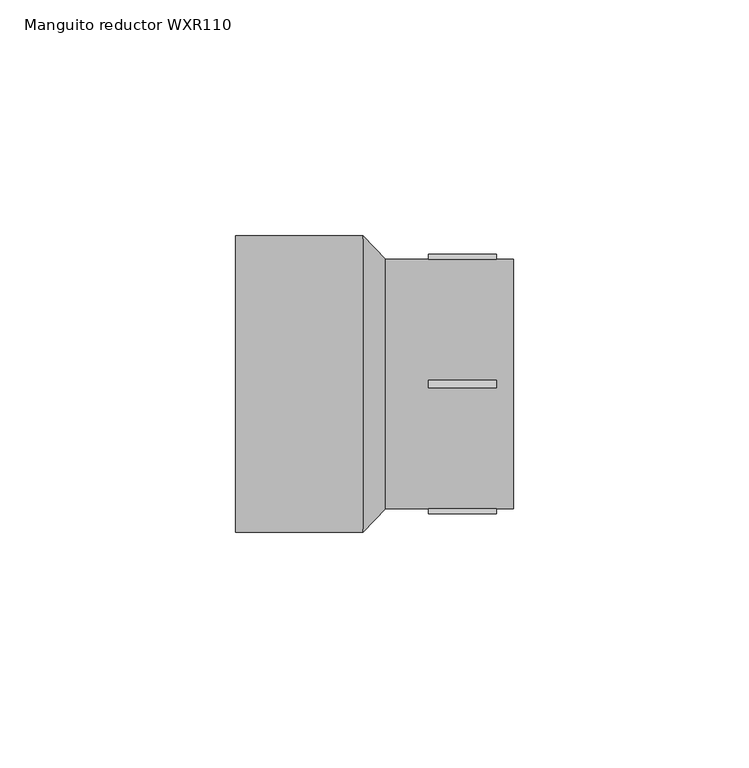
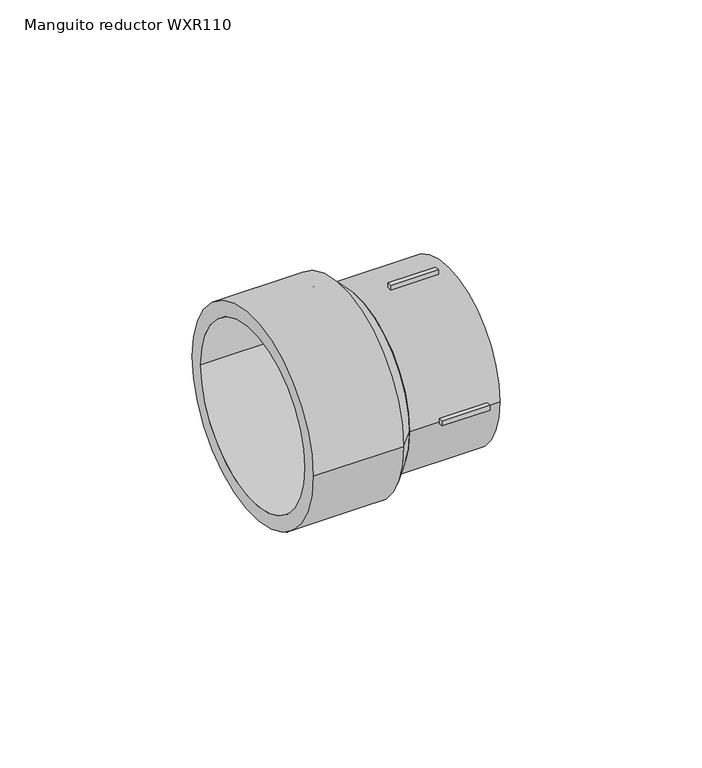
"""IFC4 building model written with IfcOpenShell, lengths in millimetres: pipe fitting geometry, EGB_VASEN_ PPR_Manguito reductor WXR110 : Manguito reductor WXR110."""

from ifc_helpers import new_model, si_unit, point, frame, origin, origin_2d, place, context, project, spatial, polyline, circle_curve, trimmed, segment, composite_curve, outline, extrude, source, transform, mapped, element, save
from ifc_brep_helpers import plane_surface, revolved_surface, advanced_brep


def manguito_reductor_wxr110_959a54b3(model_context):
    return source(origin(), model_context, "Body", "SolidModel", [
        extrude(outline(polyline([(11.5, -0.75), (11.5, 0.75), (25.9, 0.75), (25.9, -0.75), (11.5, -0.75)])), frame((0.0, 0.0, 25.5), z_axis=(0.0, 0.0, 1.0), x_axis=(1.0, 0.0, 0.0)), (0.0, 0.0, 1.0), 2.0),
        extrude(outline(polyline([(11.5, -0.75), (11.5, 0.75), (25.9, 0.75), (25.9, -0.75), (11.5, -0.75)])), frame((0.0, 0.0, -27.5), z_axis=(0.0, 0.0, 1.0), x_axis=(1.0, 0.0, 0.0)), (0.0, 0.0, 1.0), 2.0),
        extrude(outline(polyline([(11.5, 25.5), (11.5, 27.5), (25.9, 27.5), (25.9, 25.5), (11.5, 25.5)])), frame((0.0, 0.0, -0.75), z_axis=(0.0, 0.0, 1.0), x_axis=(1.0, 0.0, 0.0)), (0.0, 0.0, 1.0), 1.5),
        extrude(outline(polyline([(11.5, -27.5), (11.5, -25.5), (25.9, -25.5), (25.9, -27.5), (11.5, -27.5)])), frame((0.0, 0.0, -0.75), z_axis=(0.0, 0.0, 1.0), x_axis=(1.0, 0.0, 0.0)), (0.0, 0.0, 1.0), 1.5),
        extrude(outline(composite_curve([segment(trimmed(circle_curve(origin_2d(), 26.5), [point((-26.5, 0.0))], [point((26.5, 0.0))], False, "CARTESIAN"), True, "CONTINUOUS"), segment(trimmed(circle_curve(origin_2d(), 26.5), [point((26.5, 0.0))], [point((-26.5, 0.0))], False, "CARTESIAN"), True, "CONTINUOUS")], self_intersect=False), holes=[composite_curve([segment(trimmed(circle_curve(origin_2d(), 20.0), [point((-20.0, 0.0))], [point((20.0, 0.0))], True, "CARTESIAN"), True, "CONTINUOUS"), segment(trimmed(circle_curve(origin_2d(), 20.0), [point((20.0, 0.0))], [point((-20.0, 0.0))], True, "CARTESIAN"), True, "CONTINUOUS")], self_intersect=False)]), frame((2.36, 0.0, 0.0), z_axis=(1.0, 0.0, 0.0), x_axis=(0.0, 1.0, 0.0)), (0.0, 0.0, 1.0), 27.14),
        extrude(outline(composite_curve([segment(trimmed(circle_curve(origin_2d(), 31.5), [point((-31.5, 0.0))], [point((31.5, 0.0))], False, "CARTESIAN"), True, "CONTINUOUS"), segment(trimmed(circle_curve(origin_2d(), 31.5), [point((31.5, 0.0))], [point((-31.5, 0.0))], False, "CARTESIAN"), True, "CONTINUOUS")], self_intersect=False), holes=[composite_curve([segment(trimmed(circle_curve(origin_2d(), 27.0), [point((-27.0, 0.0))], [point((27.0, 0.0))], True, "CARTESIAN"), True, "CONTINUOUS"), segment(trimmed(circle_curve(origin_2d(), 27.0), [point((27.0, 0.0))], [point((-27.0, 0.0))], True, "CARTESIAN"), True, "CONTINUOUS")], self_intersect=False)]), frame((-29.5, 0.0, 0.0), z_axis=(1.0, 0.0, 0.0), x_axis=(0.0, 1.0, 0.0)), (0.0, 0.0, 1.0), 27.14),
        advanced_brep(
        [(2.36, -26.5, 0.0), (2.36, 26.5, 0.0), (-2.36, -31.5, 0.0), (-2.36, 31.5, 0.0)],
        [
            (0, 1, circle_curve(frame((2.36, 0.0, 0.0), z_axis=(1.0, 0.0, 0.0), x_axis=(0.0, -1.0, 0.0)), 26.5)),
            (1, 0, circle_curve(frame((2.36, 0.0, 0.0), z_axis=(1.0, 0.0, 0.0), x_axis=(0.0, 1.0, 0.0)), 26.5)),
            (2, 3, circle_curve(frame((-2.36, 0.0, 0.0), z_axis=(-1.0, 0.0, 0.0), x_axis=(0.0, 1.0, 0.0)), 31.5)),
            (3, 2, circle_curve(frame((-2.36, 0.0, 0.0), z_axis=(-1.0, 0.0, 0.0), x_axis=(0.0, -1.0, 0.0)), 31.5)),
            (3, 1),
            (0, 2),
        ],
        [
            plane_surface(frame((2.36, 0.0, 0.0), z_axis=(1.0, 0.0, 0.0), x_axis=(0.0, 0.0, -1.0))),
            plane_surface(frame((-2.36, 0.0, 0.0), z_axis=(-1.0, 0.0, 0.0), x_axis=(0.0, 0.0, -1.0))),
            revolved_surface(polyline([(2.3599999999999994, -26.5, 0.0), (-2.3599999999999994, -31.5, 0.0)]), (27.376, 0.0, 0.0), (-1.0, 0.0, 0.0)),
            revolved_surface(polyline([(2.3599999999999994, 26.5, 0.0), (-2.3599999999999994, 31.5, 0.0)]), (27.376, 0.0, 0.0), (-1.0, 0.0, 0.0)),
        ],
        [
            (0, [[1, 2]]),
            (1, [[3, 4]]),
            (2, [[-4, 5, -1, 6]]),
            (3, [[-3, -6, -2, -5]]),
        ],
    ),
    ])


if __name__ == "__main__":
    model = new_model("IFC4")
    model_context = context("Model", 3, world=origin())
    ifc_project = project(units=[si_unit("LENGTHUNIT", "METRE", prefix="MILLI")], contexts=[model_context])
    site = spatial("IfcSite", under=ifc_project)
    building = spatial("IfcBuilding", under=site)
    placement = place(None, origin())
    manguito_reductor_wxr110_shape = manguito_reductor_wxr110_959a54b3(model_context)
    element("IfcPipeFitting", 1, ObjectType="EGB_VASEN_ PPR_Manguito reductor WXR110 : Manguito reductor WXR110", at=placement, inside=building, context=model_context, shape_type="MappedRepresentation", body=[
        mapped(manguito_reductor_wxr110_shape, transform((0.0, 0.0, 0.0), x_axis=(1.0, 0.0, 0.0), y_axis=(0.0, 1.0, 0.0), z_axis=(0.0, 0.0, 1.0))),
    ])
    save(model, "model.ifc")
